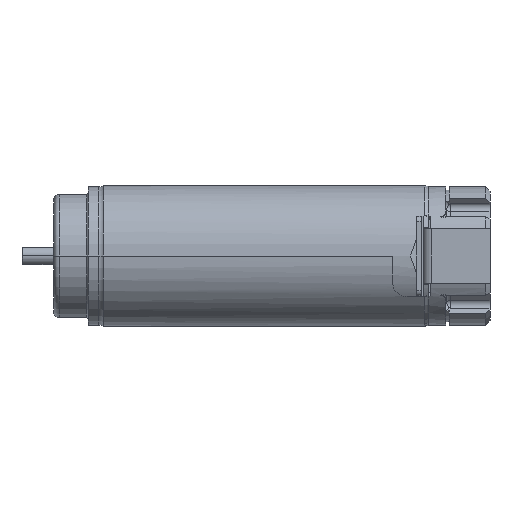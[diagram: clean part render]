
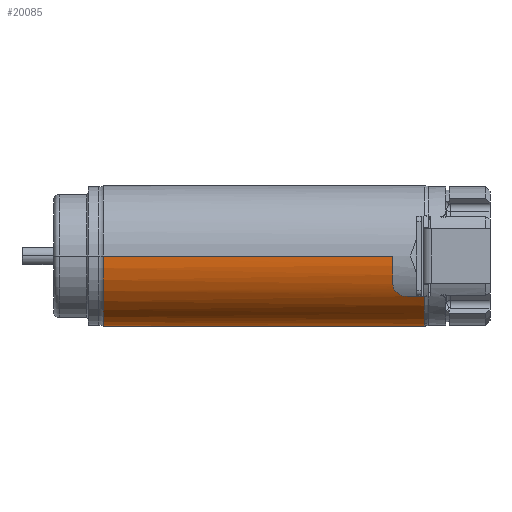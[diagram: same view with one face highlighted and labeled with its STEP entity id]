
A CAD part, front view. The second image highlights one B-rep face of the part: STEP entity #20085.
In plain terms, the highlighted cylindrical face has radius 4 mm (diameter 8 mm), a partial arc.
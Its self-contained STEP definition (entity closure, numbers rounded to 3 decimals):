
#8903=DIRECTION('',(1.,0.,0.));
#8904=VECTOR('',#8903,0.982);
#8905=CARTESIAN_POINT('',(18.1,-3.277,-2.294));
#8906=LINE('',#8905,#8904);
#8910=CARTESIAN_POINT('',(19.082,0.,0.));
#8911=DIRECTION('',(1.,0.,0.));
#8912=DIRECTION('',(0.,-0.819,-0.574));
#8913=AXIS2_PLACEMENT_3D('',#8910,#8911,#8912);
#8918=DIRECTION('',(-1.,0.,0.));
#8919=VECTOR('',#8918,18.219);
#8920=CARTESIAN_POINT('',(19.082,4.,0.));
#8921=LINE('',#8920,#8919);
#8925=CARTESIAN_POINT('',(0.863,0.,0.));
#8926=DIRECTION('',(1.,0.,0.));
#8927=DIRECTION('',(0.,-1.,0.));
#8928=AXIS2_PLACEMENT_3D('',#8925,#8926,#8927);
#8933=DIRECTION('',(-1.,0.,0.));
#8934=VECTOR('',#8933,16.437);
#8935=CARTESIAN_POINT('',(17.3,-4.,0.));
#8936=LINE('',#8935,#8934);
#8940=CARTESIAN_POINT('',(17.3,0.,0.));
#8941=DIRECTION('',(1.,0.,0.));
#8942=DIRECTION('',(0.,-1.,0.));
#8943=AXIS2_PLACEMENT_3D('',#8940,#8941,#8942);
#8948=CARTESIAN_POINT('',(17.3,-3.669,-1.593));
#8949=CARTESIAN_POINT('',(17.3,-3.663,
-1.608));
#8950=CARTESIAN_POINT('',(17.301,-3.649,
-1.638));
#8951=CARTESIAN_POINT('',(17.305,-3.629,
-1.682));
#8952=CARTESIAN_POINT('',(17.313,-3.609,
-1.726));
#8953=CARTESIAN_POINT('',(17.323,-3.588,
-1.769));
#8954=CARTESIAN_POINT('',(17.335,-3.567,
-1.81));
#8955=CARTESIAN_POINT('',(17.351,-3.546,
-1.851));
#8956=CARTESIAN_POINT('',(17.369,-3.525,
-1.891));
#8957=CARTESIAN_POINT('',(17.39,-3.504,
-1.929));
#8958=CARTESIAN_POINT('',(17.414,-3.484,
-1.966));
#8959=CARTESIAN_POINT('',(17.44,-3.464,
-2.001));
#8960=CARTESIAN_POINT('',(17.468,-3.444,
-2.035));
#8961=CARTESIAN_POINT('',(17.499,-3.425,
-2.067));
#8962=CARTESIAN_POINT('',(17.532,-3.406,-2.097));
#8963=CARTESIAN_POINT('',(17.567,-3.389,
-2.125));
#8964=CARTESIAN_POINT('',(17.604,-3.372,
-2.152));
#8965=CARTESIAN_POINT('',(17.643,-3.356,
-2.176));
#8966=CARTESIAN_POINT('',(17.684,-3.342,
-2.198));
#8967=CARTESIAN_POINT('',(17.726,-3.329,
-2.218));
#8968=CARTESIAN_POINT('',(17.769,-3.317,
-2.236));
#8969=CARTESIAN_POINT('',(17.814,-3.306,
-2.251));
#8970=CARTESIAN_POINT('',(17.86,-3.297,
-2.265));
#8971=CARTESIAN_POINT('',(17.907,-3.29,
-2.275));
#8972=CARTESIAN_POINT('',(17.955,-3.284,
-2.284));
#8973=CARTESIAN_POINT('',(18.003,-3.28,
-2.29));
#8974=CARTESIAN_POINT('',(18.051,-3.277,
-2.293));
#8975=CARTESIAN_POINT('',(18.084,-3.277,
-2.294));
#8976=CARTESIAN_POINT('',(18.1,-3.277,-2.294));
#9820=CARTESIAN_POINT('',(19.082,4.,0.));
#9821=CARTESIAN_POINT('',(0.863,4.,0.));
#9822=VERTEX_POINT('',#9820);
#9823=VERTEX_POINT('',#9821);
#9824=CARTESIAN_POINT('',(0.863,-4.,0.));
#9825=VERTEX_POINT('',#9824);
#10163=CARTESIAN_POINT('',(18.1,-3.277,-2.294));
#10164=CARTESIAN_POINT('',(19.082,-3.277,
-2.294));
#10165=VERTEX_POINT('',#10163);
#10166=VERTEX_POINT('',#10164);
#10167=CARTESIAN_POINT('',(17.3,-4.,0.));
#10168=CARTESIAN_POINT('',(17.3,-3.669,-1.593));
#10169=VERTEX_POINT('',#10167);
#10170=VERTEX_POINT('',#10168);
#20070=CARTESIAN_POINT('',(-3.063,0.,0.));
#20071=DIRECTION('',(1.,0.,0.));
#20072=DIRECTION('',(0.,-1.,0.));
#20073=AXIS2_PLACEMENT_3D('',#20070,#20071,#20072);
#20074=CYLINDRICAL_SURFACE('',#20073,4.);
#20075=ORIENTED_EDGE('',*,*,#18638,.T.);
#20076=ORIENTED_EDGE('',*,*,#18670,.T.);
#20077=ORIENTED_EDGE('',*,*,#18647,.T.);
#20079=ORIENTED_EDGE('',*,*,#20078,.F.);
#20080=ORIENTED_EDGE('',*,*,#18644,.F.);
#20081=ORIENTED_EDGE('',*,*,#18642,.T.);
#20082=ORIENTED_EDGE('',*,*,#18640,.T.);
#20083=EDGE_LOOP('',(#20075,#20076,#20077,#20079,#20080,#20081,#20082));
#20084=FACE_OUTER_BOUND('',#20083,.F.);
#20085=ADVANCED_FACE('',(#20084),#20074,.T.);
#8914=CIRCLE('',#8913,4.);
#8929=CIRCLE('',#8928,4.);
#8944=CIRCLE('',#8943,4.);
#8977=B_SPLINE_CURVE_WITH_KNOTS('',3,(#8948,#8949,#8950,#8951,#8952,#8953,#8954,
#8955,#8956,#8957,#8958,#8959,#8960,#8961,#8962,#8963,#8964,#8965,#8966,#8967,
#8968,#8969,#8970,#8971,#8972,#8973,#8974,#8975,#8976),.UNSPECIFIED.,.F.,.F.,(4,
1,1,1,1,1,1,1,1,1,1,1,1,1,1,1,1,1,1,1,1,1,1,1,1,1,4),(0.,0.038,
0.077,0.115,0.154,0.192,
0.231,0.269,0.308,0.346,
0.385,0.423,0.462,0.5,0.538,
0.577,0.615,0.654,0.692,
0.731,0.769,0.808,0.846,
0.885,0.923,0.962,1.),.UNSPECIFIED.);
#18638=EDGE_CURVE('',#10165,#10166,#8906,.T.);
#18640=EDGE_CURVE('',#10170,#10165,#8977,.T.);
#18642=EDGE_CURVE('',#10169,#10170,#8944,.T.);
#18644=EDGE_CURVE('',#10169,#9825,#8936,.T.);
#18647=EDGE_CURVE('',#9822,#9823,#8921,.T.);
#18670=EDGE_CURVE('',#10166,#9822,#8914,.T.);
#20078=EDGE_CURVE('',#9825,#9823,#8929,.T.);
